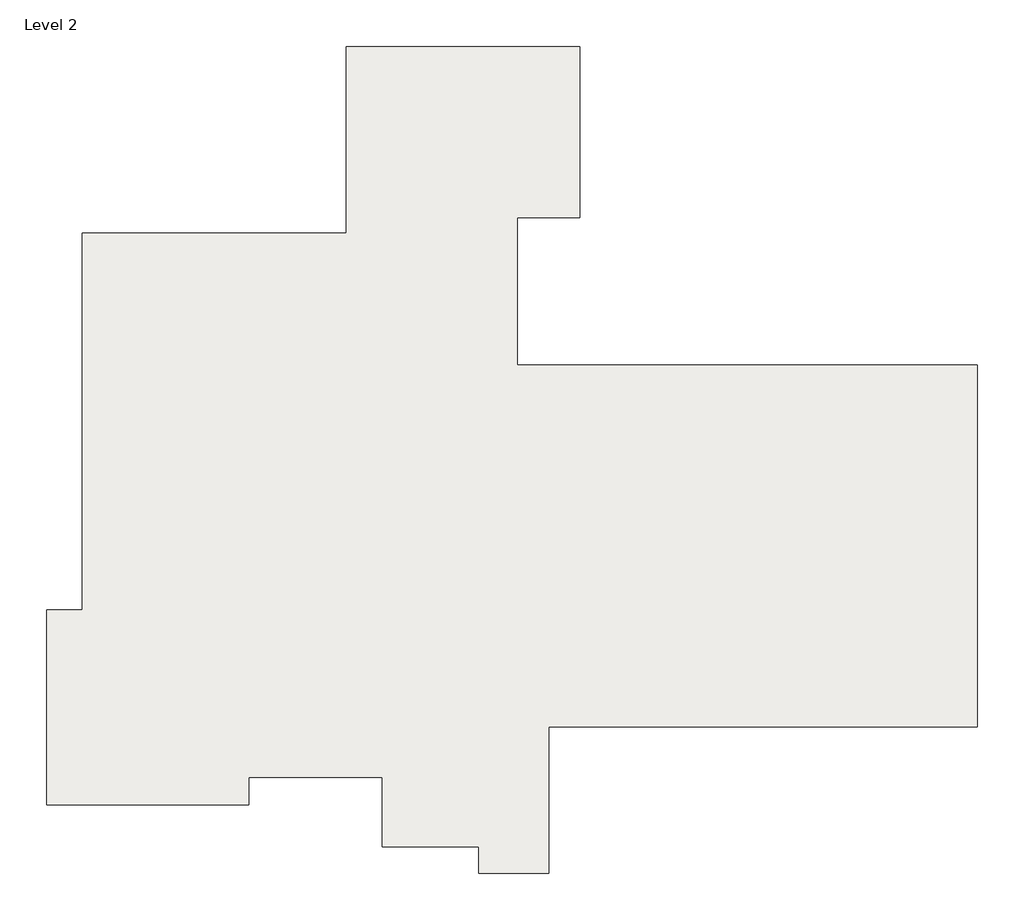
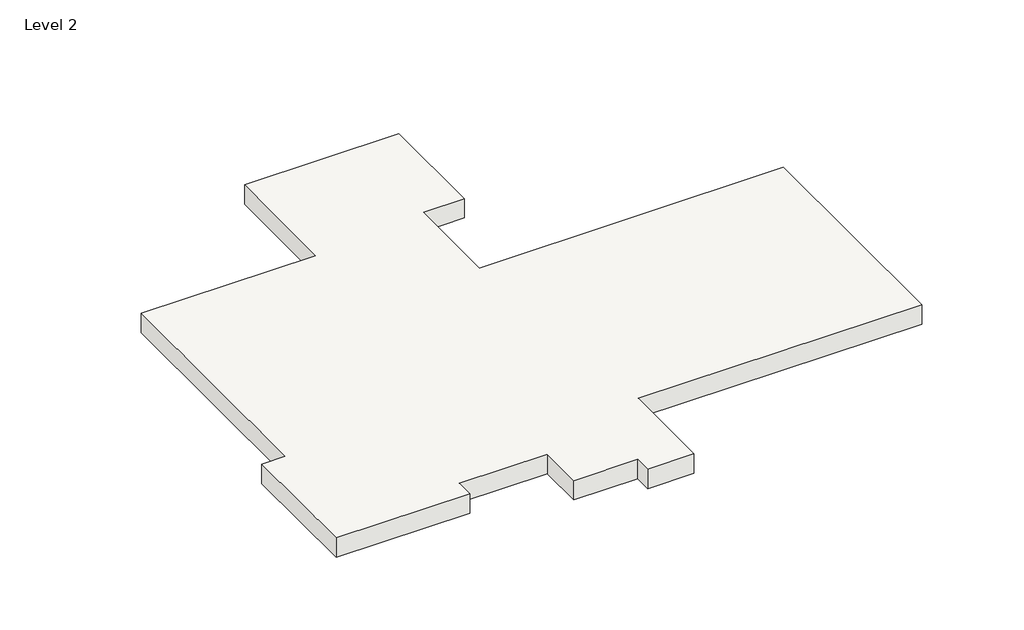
# One storey: 1 slab.
"""IFC4 building model written with IfcOpenShell, lengths in millimetres."""

from ifc_helpers import new_model, si_unit, frame, origin, place, context, project, spatial, polyline, outline, extrude, element, save

model = new_model("IFC4")

# Units and contexts
model_context = context("Model", 3, world=origin())
ifc_project = project(units=[si_unit("LENGTHUNIT", "METRE", prefix="MILLI")], contexts=[model_context])

# Site, building, storey
site = spatial("IfcSite", under=ifc_project)
building = spatial("IfcBuilding", under=site)
storey = spatial("IfcBuildingStorey", under=building, Name="Level 2", Elevation=3200.0)

# Slab
placement = place(None, origin())
element("IfcSlab", 1, ObjectType="Generic 400mm", at=placement, inside=storey, context=model_context, shape_type="SweptSolid", body=[
    extrude(outline(polyline([(2028.5468164, -2900.6595241), (-3481.4531836, -2900.6595241), (-3481.4531836, -4780.6595241), (-4381.4531836, -4780.6595241), (-4381.4531836, -4445.6595241), (-5621.4531836, -4445.6595241), (-5621.4531836, -3550.6595241), (-7331.4531121, -3550.6595241), (-7331.4531121, -3900.6595241), (-9931.4531121, -3900.6595241), (-9931.4531121, -1400.6595241), (-9471.4531836, -1400.6595241), (-9471.4531836, 3444.3404759), (-6081.4531836, 3444.3404759), (-6081.4531836, 5844.3404759), (-3081.4531836, 5844.3404759), (-3081.4531836, 3644.3404759), (-3881.4531836, 3644.3404759), (-3881.4531836, 1749.3404759), (2028.5468164, 1749.3404759), (2028.5468164, -2900.6595241)])), frame((0.0, 0.0, 2800.0), z_axis=(0.0, 0.0, 1.0), x_axis=(1.0, 0.0, 0.0)), (0.0, 0.0, 1.0), 400.0),
])

save(model, "model.ifc")
